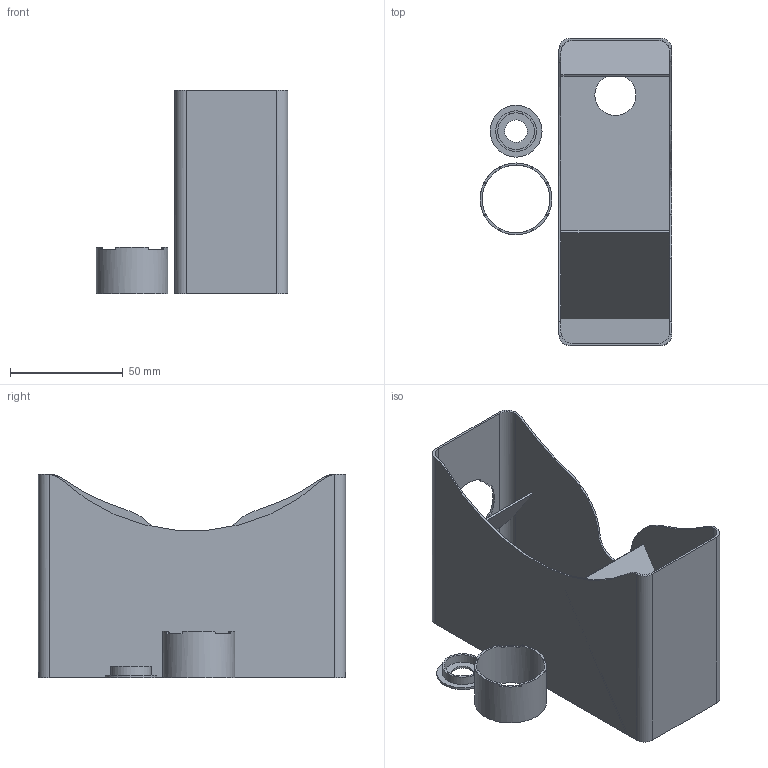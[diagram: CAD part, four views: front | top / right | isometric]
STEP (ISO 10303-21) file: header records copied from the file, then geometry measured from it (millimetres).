
FILE_DESCRIPTION(/* description */ (''),/* implementation_level */ '2;1');
FILE_NAME(/* name */ 'C:/Users/tatsu/Desktop/CapNYS_fix_3d/capnys.stp',/* time_stamp */ '2026-05-22T20:40:01+09:00',/* author */ (''),/* organization */ (''),/* preprocessor_version */ 'ST-DEVELOPER v15.2',/* originating_system */ 'Autodesk Translator Framework v2.0.0.5431',/* authorisation */ '');
FILE_SCHEMA (('AUTOMOTIVE_DESIGN { 1 0 10303 214 3 1 1 }'));
Length unit declared in the file: centimetre
Products named in the file (1): capnys
Bounding box: 84.9 x 136 x 90 mm (x, y, z)
Volume: 40998.5 mm3; surface area: 82025.6 mm2
Topology: 4 solids, 4 shells, 99 faces, 270 edges, 180 vertices
Faces by surface type: plane 62, cylinder 37
Full cylindrical faces by diameter (mm): 10 x1, 16.2 x1, 18 x1, 18.2 x1, 23 x1, 30 x1, 31.8 x1
Entity records: 3166 total; most frequent: CARTESIAN_POINT 567, DIRECTION 557, ORIENTED_EDGE 522, EDGE_CURVE 261, AXIS2_PLACEMENT_3D 204, VERTEX_POINT 178, LINE 149, VECTOR 149
